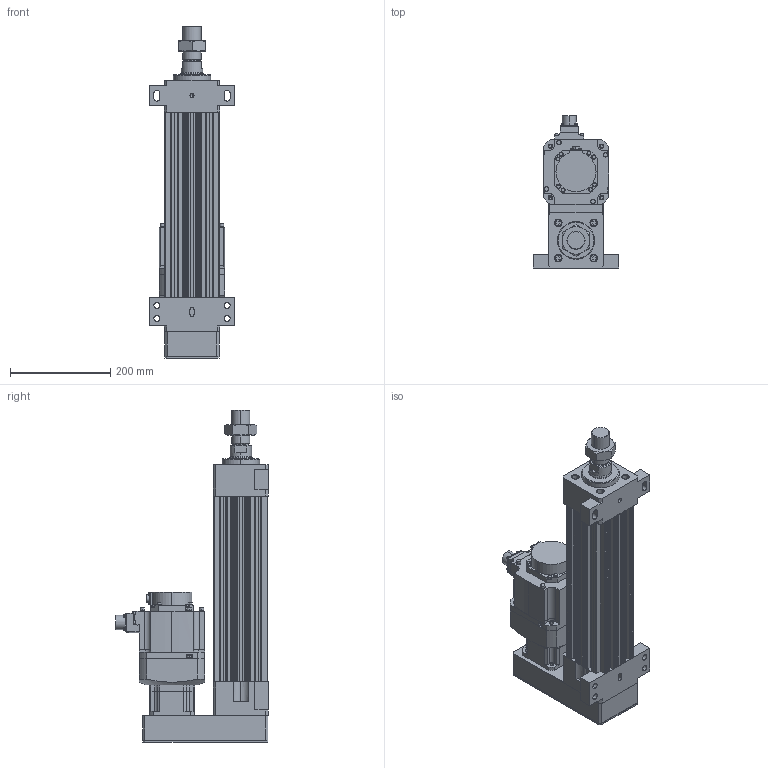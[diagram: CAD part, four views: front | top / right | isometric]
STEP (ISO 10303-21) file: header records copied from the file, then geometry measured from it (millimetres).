
FILE_DESCRIPTION (( 'STEP AP203' ), '1' );
FILE_NAME ('HES110NS(HS)-P200-W010G00-M-FFB.STEP', '2023-01-26T08:51:08', ( 'tms' ), ( '' ), 'SwSTEP 2.0', 'SolidWorks 2013', '' );
FILE_SCHEMA (( 'CONFIG_CONTROL_DESIGN' ));
Length unit declared in the file: millimetre
Products named in the file (8): HES110NS(HS)-P200-W010G00-M-FFB; P0401301004; HES110 ROD M ST200; M36X1.5P; AB090-003[HG-SR102B]; HG-SR102; HES110-P200-G090-FFB; AB0901
Assembly tree (7 placements, depth 3):
  HES110NS(HS)-P200-W010G00-M-FFB
    HES110-P200-G090-FFB
    AB090-003[HG-SR102B]
      AB0901
      P0401301004
    HG-SR102
    HES110 ROD M ST200
    M36X1.5P
Bounding box: 170 x 304.99 x 663 mm (x, y, z)
Volume: 6855944.4 mm3; surface area: 831585.3 mm2
Topology: 4 solids, 11 shells, 1083 faces, 2775 edges, 1806 vertices
Faces by surface type: cylinder 501, plane 500, cone 70, bspline 8, torus 4
Entity records: 34904 total; most frequent: CARTESIAN_POINT 6854, DIRECTION 5982, ORIENTED_EDGE 5502, EDGE_CURVE 2761, AXIS2_PLACEMENT_3D 2205, VERTEX_POINT 1806, VECTOR 1572, LINE 1572
